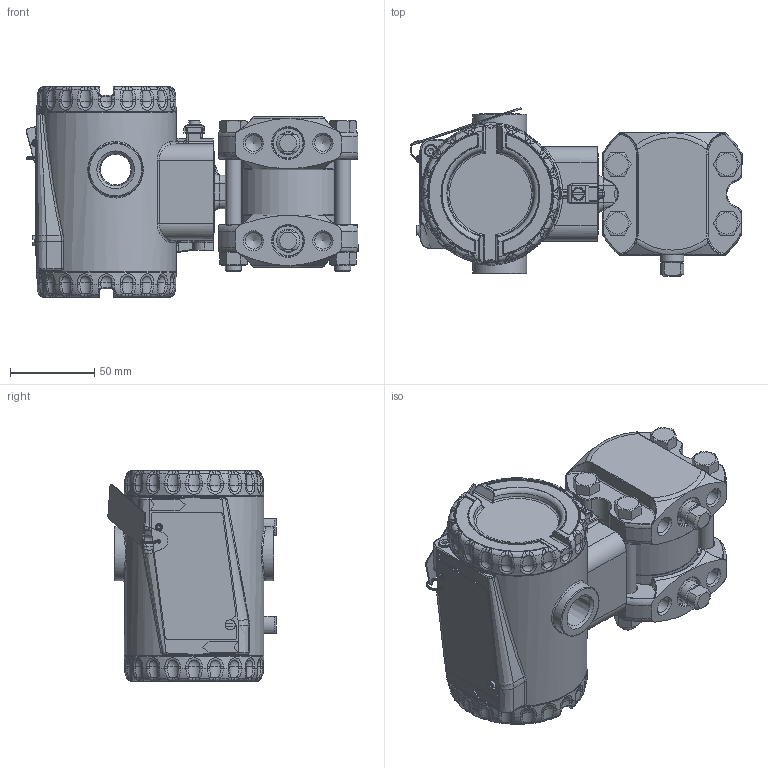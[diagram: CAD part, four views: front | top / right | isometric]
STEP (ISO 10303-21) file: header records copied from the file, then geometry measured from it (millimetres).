
FILE_DESCRIPTION(/* description */ (''),/* implementation_level */ '2;1');
FILE_NAME(/* name */ 'F:\Area\Desenvolvimento_2\Projects\Sensor\projetos\LD400-3d\dimensionais 3D clientes\LD400H5 1-4NPT monel sem purga.stp',/* time_stamp */ '2023-02-02T11:56:02-03:00',/* author */ ('inventor02'),/* organization */ (''),/* preprocessor_version */ 'ST-DEVELOPER v17',/* originating_system */ 'Autodesk Inventor 2019',/* authorisation */ '');
FILE_SCHEMA (('CONFIG_CONTROL_DESIGN'));
Products named in the file (28): LD400H5 1-4NPT monel sem purga; Carcaça 400 com tampas e plaqueta sem letras; 101-D-0845-05 carcaça LD400 sem letras; 101-B-3614-03-tampa 400 sem letras; Tampa visor 400 montada sem letras; 101-B-3612-05 tampa visor 400 sem letras; 101-A-6107; oring 2034; 00034775-0; WHW_250; DIN 915 - M6 x 10; Chapa aterramento externo; 201-A-1771-02 inserto terra recartilhado; AS 1969 - ST4,2; ISO 1207 - M4 x 8; ANSI B18.3.1M - M4x0,7 x 8; Subconjunto plaqueta 400; plaqueta 400 em branco; Parafuso da Plaqueta; Rebite da Plaqueta; 096-A-0169-03; 101-A-0502-01; diferencial FX5 monel sem purga; involucro fx5 apos a usinagem final; bujao 1-4NPT; 101-C-0040-05 monel barra 7-16; Paraf. 3-8 x 16 UNC; Porca 3-8 x 16 UNC
Assembly tree (36 placements, depth 4):
  LD400H5 1-4NPT monel sem purga
    Carcaça 400 com tampas e plaqueta sem letras
      101-D-0845-05 carcaça LD400 sem letras
      101-B-3614-03-tampa 400 sem letras
      Tampa visor 400 montada sem letras
        101-B-3612-05 tampa visor 400 sem letras
        101-A-6107
        oring 2034
        00034775-0
        WHW_250
      DIN 915 - M6 x 10
      Chapa aterramento externo
      201-A-1771-02 inserto terra recartilhado
      AS 1969 - ST4,2
      ISO 1207 - M4 x 8
      ANSI B18.3.1M - M4x0,7 x 8  x2
      Subconjunto plaqueta 400
        plaqueta 400 em branco
        Parafuso da Plaqueta
        Rebite da Plaqueta
        096-A-0169-03
        101-A-0502-01
    diferencial FX5 monel sem purga
      involucro fx5 apos a usinagem final
      bujao 1-4NPT  x2
      101-C-0040-05 monel barra 7-16  x2
      Paraf. 3-8 x 16 UNC  x4
      Porca 3-8 x 16 UNC  x4
Bounding box: 197.25 x 99.89 x 125 mm (x, y, z)
Volume: 668050.5 mm3; surface area: 239484.1 mm2
Topology: 32 solids, 32 shells, 2249 faces, 5521 edges, 3329 vertices
Faces by surface type: plane 599, bspline 527, cylinder 491, torus 352, cone 227, sphere 53
Full cylindrical faces by diameter (mm): 2 x2, 2.1 x1, 2.2 x1, 2.459 x3, 2.7 x1, 3 x1, 3.242 x3, 3.571 x1, 4 x4, 4.3 x2, 4.4 x1, 4.917 x1, 5 x4, 6 x2, 6.1 x2, 6.2 x1, 7 x2, 7.6 x2, 7.798 x4, 9.525 x4, 9.728 x8, 10.5 x8, 10.719 x4, 12 x2, 13.8 x2, 14 x1, 18.3 x2, 18.5 x4, 26 x2, 32 x2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
Entity records: 74740 total; most frequent: CARTESIAN_POINT 30213, ORIENTED_EDGE 9348, DIRECTION 8878, EDGE_CURVE 4674, AXIS2_PLACEMENT_3D 3734, VERTEX_POINT 2826, CIRCLE 2145, EDGE_LOOP 2018
